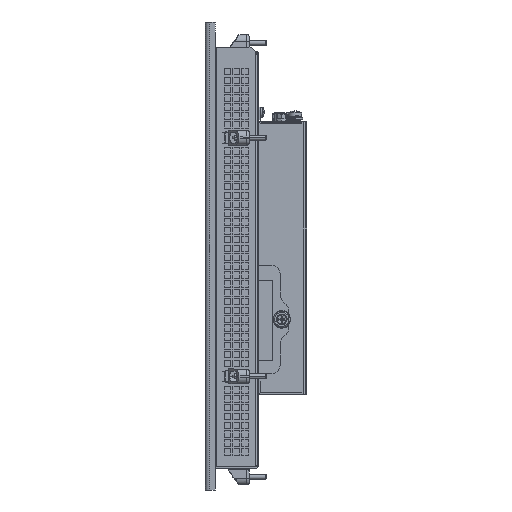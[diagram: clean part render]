
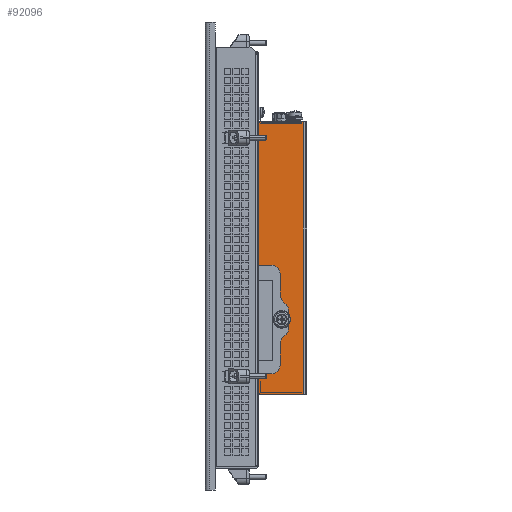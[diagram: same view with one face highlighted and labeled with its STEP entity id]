
A CAD part, left-side view. The second image highlights one B-rep face of the part: STEP entity #92096.
In plain terms, the highlighted planar face has unit normal (-1, 0, 0).
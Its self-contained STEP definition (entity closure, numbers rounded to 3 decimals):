
#67589=DIRECTION('',(0.,0.,1.));
#67590=VECTOR('',#67589,163.5);
#67591=CARTESIAN_POINT('',(-126.5,-47.9,-64.25));
#67592=LINE('',#67591,#67590);
#67593=DIRECTION('',(0.,1.,0.));
#67594=VECTOR('',#67593,8.5);
#67595=CARTESIAN_POINT('',(-126.5,-29.4,4.25));
#67596=LINE('',#67595,#67594);
#67597=DIRECTION('',(0.,-1.,0.));
#67598=VECTOR('',#67597,3.);
#67599=CARTESIAN_POINT('',(-126.5,-17.9,4.25));
#67600=LINE('',#67599,#67598);
#67601=DIRECTION('',(0.,-0.707,-0.707));
#67602=VECTOR('',#67601,1.414);
#67603=CARTESIAN_POINT('',(-126.5,-16.9,5.25));
#67604=LINE('',#67603,#67602);
#67605=DIRECTION('',(0.,0.,-1.));
#67606=VECTOR('',#67605,28.);
#67607=CARTESIAN_POINT('',(-126.5,-16.9,33.25));
#67608=LINE('',#67607,#67606);
#67609=DIRECTION('',(0.,0.707,-0.707));
#67610=VECTOR('',#67609,1.414);
#67611=CARTESIAN_POINT('',(-126.5,-17.9,34.25));
#67612=LINE('',#67611,#67610);
#67613=DIRECTION('',(0.,-1.,0.));
#67614=VECTOR('',#67613,3.);
#67615=CARTESIAN_POINT('',(-126.5,-17.9,34.25));
#67616=LINE('',#67615,#67614);
#67617=DIRECTION('',(0.,0.,-1.));
#67618=VECTOR('',#67617,55.);
#67619=CARTESIAN_POINT('',(-126.5,-20.9,89.25));
#67620=LINE('',#67619,#67618);
#67621=DIRECTION('',(0.,0.,-1.));
#67622=VECTOR('',#67621,4.);
#67623=CARTESIAN_POINT('',(-126.5,-20.9,93.25));
#67624=LINE('',#67623,#67622);
#67625=DIRECTION('',(0.,1.,0.));
#67626=VECTOR('',#67625,1.5);
#67627=CARTESIAN_POINT('',(-126.5,-20.9,93.25));
#67628=LINE('',#67627,#67626);
#67629=DIRECTION('',(0.,0.,-1.));
#67630=VECTOR('',#67629,3.);
#67631=CARTESIAN_POINT('',(-126.5,-19.4,93.25));
#67632=LINE('',#67631,#67630);
#67633=DIRECTION('',(0.,-0.707,0.707));
#67634=VECTOR('',#67633,1.414);
#67635=CARTESIAN_POINT('',(-126.5,-18.4,89.25));
#67636=LINE('',#67635,#67634);
#67637=DIRECTION('',(0.,-1.,0.));
#67638=VECTOR('',#67637,0.5);
#67639=CARTESIAN_POINT('',(-126.5,-17.9,89.25));
#67640=LINE('',#67639,#67638);
#67641=DIRECTION('',(0.,-0.707,-0.707));
#67642=VECTOR('',#67641,1.414);
#67643=CARTESIAN_POINT('',(-126.5,-16.9,90.25));
#67644=LINE('',#67643,#67642);
#67645=DIRECTION('',(0.,0.,-1.));
#67646=VECTOR('',#67645,8.);
#67647=CARTESIAN_POINT('',(-126.5,-16.9,98.25));
#67648=LINE('',#67647,#67646);
#67649=DIRECTION('',(0.,0.707,-0.707));
#67650=VECTOR('',#67649,1.414);
#67651=CARTESIAN_POINT('',(-126.5,-17.9,99.25));
#67652=LINE('',#67651,#67650);
#67653=DIRECTION('',(0.,0.,1.));
#67654=VECTOR('',#67653,4.);
#67655=CARTESIAN_POINT('',(-126.5,-20.9,-64.25));
#67656=LINE('',#67655,#67654);
#67657=DIRECTION('',(0.,1.,0.));
#67658=VECTOR('',#67657,1.5);
#67659=CARTESIAN_POINT('',(-126.5,-20.9,-60.25));
#67660=LINE('',#67659,#67658);
#67661=DIRECTION('',(0.,0.,-1.));
#67662=VECTOR('',#67661,3.);
#67663=CARTESIAN_POINT('',(-126.5,-19.4,-60.25));
#67664=LINE('',#67663,#67662);
#67665=DIRECTION('',(0.,-0.707,0.707));
#67666=VECTOR('',#67665,1.414);
#67667=CARTESIAN_POINT('',(-126.5,-18.4,-64.25));
#67668=LINE('',#67667,#67666);
#67669=DIRECTION('',(0.,-0.707,-0.707));
#67670=VECTOR('',#67669,1.414);
#67671=CARTESIAN_POINT('',(-126.5,-16.9,-63.25));
#67672=LINE('',#67671,#67670);
#67673=DIRECTION('',(0.,0.,-1.));
#67674=VECTOR('',#67673,6.5);
#67675=CARTESIAN_POINT('',(-126.5,-16.9,-56.75));
#67676=LINE('',#67675,#67674);
#67677=DIRECTION('',(0.,0.707,-0.707));
#67678=VECTOR('',#67677,1.414);
#67679=CARTESIAN_POINT('',(-126.5,-17.9,-55.75));
#67680=LINE('',#67679,#67678);
#67681=DIRECTION('',(0.,-1.,0.));
#67682=VECTOR('',#67681,3.);
#67683=CARTESIAN_POINT('',(-126.5,-17.9,-55.75));
#67684=LINE('',#67683,#67682);
#67685=DIRECTION('',(0.,0.,-1.));
#67686=VECTOR('',#67685,12.);
#67687=CARTESIAN_POINT('',(-126.5,-20.9,-43.75));
#67688=LINE('',#67687,#67686);
#67689=DIRECTION('',(0.,-1.,0.));
#67690=VECTOR('',#67689,8.5);
#67691=CARTESIAN_POINT('',(-126.5,-20.9,-43.75));
#67692=LINE('',#67691,#67690);
#67693=DIRECTION('',(0.,0.,1.));
#67694=VECTOR('',#67693,48.);
#67695=CARTESIAN_POINT('',(-126.5,-29.4,-43.75));
#67696=LINE('',#67695,#67694);
#67697=CARTESIAN_POINT('',(-126.5,-34.9,-19.25));
#67698=DIRECTION('',(-1.,0.,0.));
#67699=DIRECTION('',(0.,0.,1.));
#67700=AXIS2_PLACEMENT_3D('',#67697,#67698,#67699);
#67702=CARTESIAN_POINT('',(-126.5,-34.9,-19.25));
#67703=DIRECTION('',(-1.,0.,0.));
#67704=DIRECTION('',(0.,0.,-1.));
#67705=AXIS2_PLACEMENT_3D('',#67702,#67703,#67704);
#67865=DIRECTION('',(0.,-1.,0.));
#67866=VECTOR('',#67865,0.5);
#67867=CARTESIAN_POINT('',(-126.5,-17.9,-64.25));
#67868=LINE('',#67867,#67866);
#67877=DIRECTION('',(0.,-1.,0.));
#67878=VECTOR('',#67877,27.);
#67879=CARTESIAN_POINT('',(-126.5,-20.9,-64.25));
#67880=LINE('',#67879,#67878);
#67893=DIRECTION('',(0.,1.,0.));
#67894=VECTOR('',#67893,30.);
#67895=CARTESIAN_POINT('',(-126.5,-47.9,99.25));
#67896=LINE('',#67895,#67894);
#80753=CARTESIAN_POINT('',(-126.5,-47.9,-64.25));
#80754=CARTESIAN_POINT('',(-126.5,-47.9,99.25));
#80755=VERTEX_POINT('',#80753);
#80756=VERTEX_POINT('',#80754);
#83243=CARTESIAN_POINT('',(-126.5,-20.9,-60.25));
#83244=CARTESIAN_POINT('',(-126.5,-20.9,-64.25));
#83245=VERTEX_POINT('',#83243);
#83246=VERTEX_POINT('',#83244);
#83247=CARTESIAN_POINT('',(-126.5,-19.4,-60.25));
#83248=VERTEX_POINT('',#83247);
#83273=CARTESIAN_POINT('',(-126.5,-20.9,89.25));
#83274=CARTESIAN_POINT('',(-126.5,-20.9,34.25));
#83275=VERTEX_POINT('',#83273);
#83276=VERTEX_POINT('',#83274);
#83289=CARTESIAN_POINT('',(-126.5,-20.9,-55.75));
#83291=VERTEX_POINT('',#83289);
#83325=CARTESIAN_POINT('',(-126.5,-17.9,-55.75));
#83326=CARTESIAN_POINT('',(-126.5,-16.9,-56.75));
#83327=VERTEX_POINT('',#83325);
#83328=VERTEX_POINT('',#83326);
#83333=CARTESIAN_POINT('',(-126.5,-16.9,5.25));
#83334=CARTESIAN_POINT('',(-126.5,-17.9,4.25));
#83335=VERTEX_POINT('',#83333);
#83336=VERTEX_POINT('',#83334);
#83341=CARTESIAN_POINT('',(-126.5,-17.9,34.25));
#83342=CARTESIAN_POINT('',(-126.5,-16.9,33.25));
#83343=VERTEX_POINT('',#83341);
#83344=VERTEX_POINT('',#83342);
#83349=CARTESIAN_POINT('',(-126.5,-16.9,90.25));
#83350=CARTESIAN_POINT('',(-126.5,-17.9,89.25));
#83351=VERTEX_POINT('',#83349);
#83352=VERTEX_POINT('',#83350);
#83359=CARTESIAN_POINT('',(-126.5,-18.4,89.25));
#83360=VERTEX_POINT('',#83359);
#83365=CARTESIAN_POINT('',(-126.5,-16.9,98.25));
#83366=VERTEX_POINT('',#83365);
#83367=CARTESIAN_POINT('',(-126.5,-16.9,-63.25));
#83368=VERTEX_POINT('',#83367);
#83381=CARTESIAN_POINT('',(-126.5,-20.9,4.25));
#83382=CARTESIAN_POINT('',(-126.5,-29.4,4.25));
#83383=VERTEX_POINT('',#83381);
#83384=VERTEX_POINT('',#83382);
#83385=CARTESIAN_POINT('',(-126.5,-29.4,-43.75));
#83386=VERTEX_POINT('',#83385);
#83387=CARTESIAN_POINT('',(-126.5,-20.9,-43.75));
#83388=VERTEX_POINT('',#83387);
#83399=CARTESIAN_POINT('',(-126.5,-19.4,93.25));
#83400=CARTESIAN_POINT('',(-126.5,-20.9,93.25));
#83401=VERTEX_POINT('',#83399);
#83402=VERTEX_POINT('',#83400);
#83421=CARTESIAN_POINT('',(-126.5,-18.4,-64.25));
#83422=CARTESIAN_POINT('',(-126.5,-19.4,-63.25));
#83423=VERTEX_POINT('',#83421);
#83424=VERTEX_POINT('',#83422);
#83429=CARTESIAN_POINT('',(-126.5,-19.4,90.25));
#83430=VERTEX_POINT('',#83429);
#83441=CARTESIAN_POINT('',(-126.5,-17.9,-64.25));
#83442=VERTEX_POINT('',#83441);
#83445=CARTESIAN_POINT('',(-126.5,-17.9,99.25));
#83446=VERTEX_POINT('',#83445);
#86033=CARTESIAN_POINT('',(-126.5,-34.9,-21.4));
#86034=CARTESIAN_POINT('',(-126.5,-34.9,-17.1));
#86035=VERTEX_POINT('',#86033);
#86036=VERTEX_POINT('',#86034);
#92024=CARTESIAN_POINT('',(-126.5,-20.9,-64.25));
#92025=DIRECTION('',(-1.,0.,0.));
#92026=DIRECTION('',(0.,-1.,0.));
#92027=AXIS2_PLACEMENT_3D('',#92024,#92025,#92026);
#92028=PLANE('',#92027);
#92030=ORIENTED_EDGE('',*,*,#92029,.T.);
#92032=ORIENTED_EDGE('',*,*,#92031,.F.);
#92034=ORIENTED_EDGE('',*,*,#92033,.F.);
#92036=ORIENTED_EDGE('',*,*,#92035,.F.);
#92038=ORIENTED_EDGE('',*,*,#92037,.F.);
#92040=ORIENTED_EDGE('',*,*,#92039,.T.);
#92042=ORIENTED_EDGE('',*,*,#92041,.F.);
#92044=ORIENTED_EDGE('',*,*,#92043,.F.);
#92046=ORIENTED_EDGE('',*,*,#92045,.T.);
#92048=ORIENTED_EDGE('',*,*,#92047,.T.);
#92050=ORIENTED_EDGE('',*,*,#92049,.F.);
#92052=ORIENTED_EDGE('',*,*,#92051,.F.);
#92054=ORIENTED_EDGE('',*,*,#92053,.F.);
#92056=ORIENTED_EDGE('',*,*,#92055,.F.);
#92058=ORIENTED_EDGE('',*,*,#92057,.F.);
#92060=ORIENTED_EDGE('',*,*,#92059,.F.);
#92061=ORIENTED_EDGE('',*,*,#92016,.F.);
#92063=ORIENTED_EDGE('',*,*,#92062,.F.);
#92065=ORIENTED_EDGE('',*,*,#92064,.T.);
#92067=ORIENTED_EDGE('',*,*,#92066,.T.);
#92069=ORIENTED_EDGE('',*,*,#92068,.T.);
#92071=ORIENTED_EDGE('',*,*,#92070,.F.);
#92073=ORIENTED_EDGE('',*,*,#92072,.F.);
#92075=ORIENTED_EDGE('',*,*,#92074,.F.);
#92077=ORIENTED_EDGE('',*,*,#92076,.F.);
#92079=ORIENTED_EDGE('',*,*,#92078,.F.);
#92081=ORIENTED_EDGE('',*,*,#92080,.T.);
#92083=ORIENTED_EDGE('',*,*,#92082,.F.);
#92085=ORIENTED_EDGE('',*,*,#92084,.T.);
#92087=ORIENTED_EDGE('',*,*,#92086,.T.);
#92088=EDGE_LOOP('',(#92030,#92032,#92034,#92036,#92038,#92040,#92042,#92044,
#92046,#92048,#92050,#92052,#92054,#92056,#92058,#92060,#92061,#92063,#92065,
#92067,#92069,#92071,#92073,#92075,#92077,#92079,#92081,#92083,#92085,#92087));
#92089=FACE_OUTER_BOUND('',#92088,.F.);
#92091=ORIENTED_EDGE('',*,*,#92090,.T.);
#92093=ORIENTED_EDGE('',*,*,#92092,.T.);
#92094=EDGE_LOOP('',(#92091,#92093));
#92095=FACE_BOUND('',#92094,.F.);
#67701=CIRCLE('',#67700,2.15);
#67706=CIRCLE('',#67705,2.15);
#92016=EDGE_CURVE('',#80755,#80756,#67592,.T.);
#92029=EDGE_CURVE('',#83384,#83383,#67596,.T.);
#92031=EDGE_CURVE('',#83336,#83383,#67600,.T.);
#92033=EDGE_CURVE('',#83335,#83336,#67604,.T.);
#92035=EDGE_CURVE('',#83344,#83335,#67608,.T.);
#92037=EDGE_CURVE('',#83343,#83344,#67612,.T.);
#92039=EDGE_CURVE('',#83343,#83276,#67616,.T.);
#92041=EDGE_CURVE('',#83275,#83276,#67620,.T.);
#92043=EDGE_CURVE('',#83402,#83275,#67624,.T.);
#92045=EDGE_CURVE('',#83402,#83401,#67628,.T.);
#92047=EDGE_CURVE('',#83401,#83430,#67632,.T.);
#92049=EDGE_CURVE('',#83360,#83430,#67636,.T.);
#92051=EDGE_CURVE('',#83352,#83360,#67640,.T.);
#92053=EDGE_CURVE('',#83351,#83352,#67644,.T.);
#92055=EDGE_CURVE('',#83366,#83351,#67648,.T.);
#92057=EDGE_CURVE('',#83446,#83366,#67652,.T.);
#92059=EDGE_CURVE('',#80756,#83446,#67896,.T.);
#92062=EDGE_CURVE('',#83246,#80755,#67880,.T.);
#92064=EDGE_CURVE('',#83246,#83245,#67656,.T.);
#92066=EDGE_CURVE('',#83245,#83248,#67660,.T.);
#92068=EDGE_CURVE('',#83248,#83424,#67664,.T.);
#92070=EDGE_CURVE('',#83423,#83424,#67668,.T.);
#92072=EDGE_CURVE('',#83442,#83423,#67868,.T.);
#92074=EDGE_CURVE('',#83368,#83442,#67672,.T.);
#92076=EDGE_CURVE('',#83328,#83368,#67676,.T.);
#92078=EDGE_CURVE('',#83327,#83328,#67680,.T.);
#92080=EDGE_CURVE('',#83327,#83291,#67684,.T.);
#92082=EDGE_CURVE('',#83388,#83291,#67688,.T.);
#92084=EDGE_CURVE('',#83388,#83386,#67692,.T.);
#92086=EDGE_CURVE('',#83386,#83384,#67696,.T.);
#92090=EDGE_CURVE('',#86036,#86035,#67701,.T.);
#92092=EDGE_CURVE('',#86035,#86036,#67706,.T.);
#92096=ADVANCED_FACE('',(#92089,#92095),#92028,.T.);
